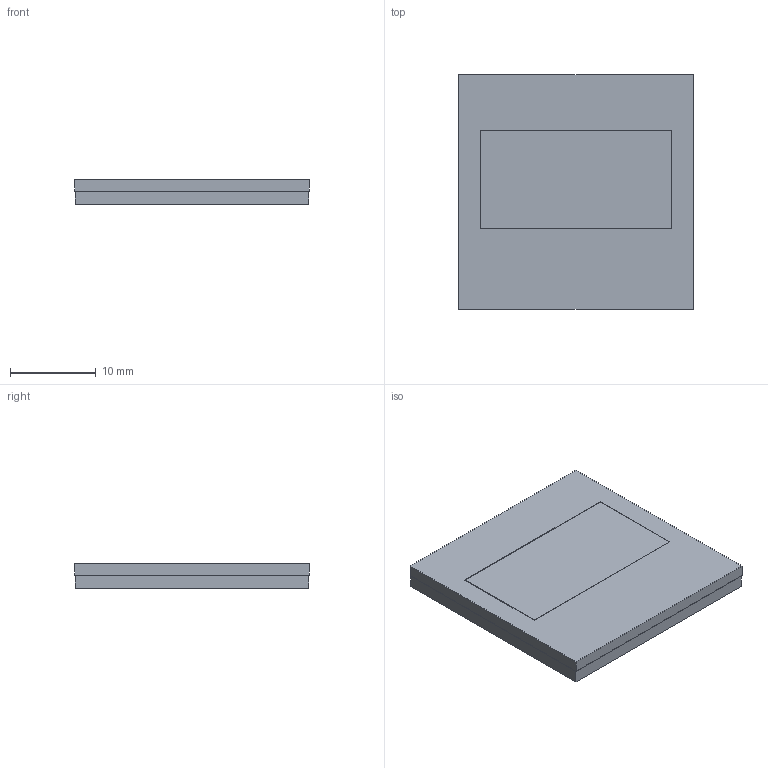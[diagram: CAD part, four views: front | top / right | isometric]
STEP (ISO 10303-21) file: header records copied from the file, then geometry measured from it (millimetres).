
FILE_DESCRIPTION(('Open CASCADE Model'),'2;1');
FILE_NAME('Open CASCADE Shape Model','2026-05-31T19:43:34',('Author'),( 'Open CASCADE'),'Open CASCADE STEP processor 7.6','Open CASCADE 7.6' ,'Unknown');
FILE_SCHEMA(('AP242_MANAGED_MODEL_BASED_3D_ENGINEERING_MIM_LF. {1 0 10303 442 1 1 4 }'));
Length unit declared in the file: millimetre
Products named in the file (2): Socket; Part
Bounding box: 27.4 x 27.4 x 2.9 mm (x, y, z)
Volume: 2139.6 mm3; surface area: 2974.5 mm2
Topology: 2 solids, 2 shells, 21 faces, 48 edges, 32 vertices
Faces by surface type: plane 21
Entity records: 1220 total; most frequent: CARTESIAN_POINT 206, DIRECTION 180, LINE 136, VECTOR 136, ORIENTED_EDGE 96, PCURVE 96, DEFINITIONAL_REPRESENTATION 96, EDGE_CURVE 48
